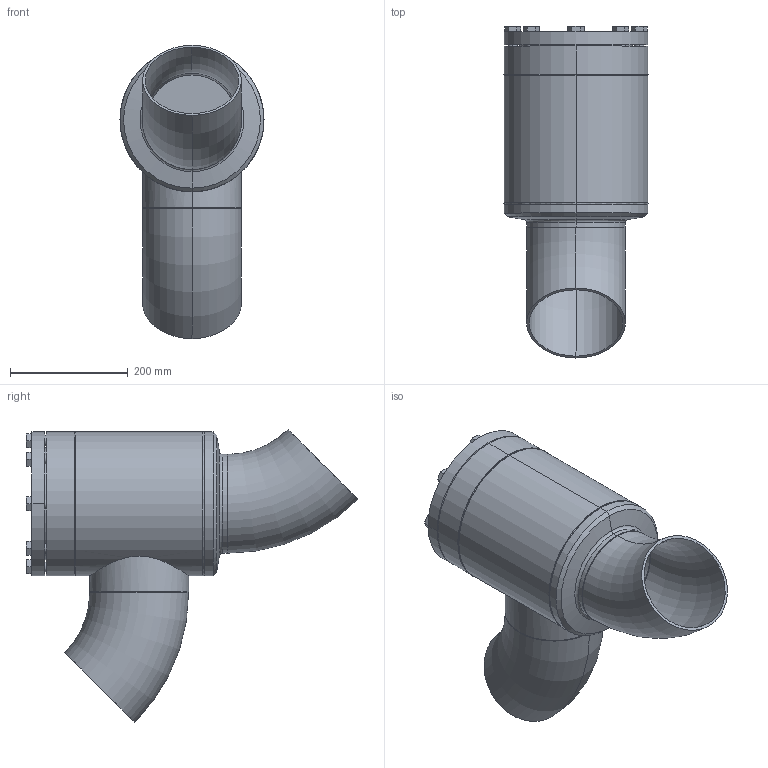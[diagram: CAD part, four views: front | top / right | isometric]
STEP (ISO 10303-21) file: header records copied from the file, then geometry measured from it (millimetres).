
FILE_DESCRIPTION (( 'STEP AP214' ), '1' );
FILE_NAME ('SS52300D21-DN150_R1_PS40.STEP', '2006-05-02T05:45:00', ( 'Herr Grams' ), ( 'AWP GmbH' ), 'SwSTEP 2.0', 'SolidWorks 2002296', '' );
FILE_SCHEMA (( 'AUTOMOTIVE_DESIGN' ));
Length unit declared in the file: millimetre
Products named in the file (14): SS52300D21-DN150_R1_PS40; Gehäuse-kpl16300-DN150_R1_Standard; Kopfstück16300-DN150_Standard; Gehäuse16300-DN150_Standard; Boden16300-DN150_Standard; Rohrstutzen-A16300-DN150_R1_Standard; Rohrbogen 45°_Rohrbogen-DN150-45°; bead-DN150-4_Standard; bead-DN150-1_Standard; bead-DN150-3_Standard; bead-DN150-2_Standard; SS52300E21_Deck+Schr-DN150_Standard; Deckel52300E21-DN150_Standard; Sechskantschraube-DIN933_M16x 45
Assembly tree (23 placements, depth 3):
  SS52300D21-DN150_R1_PS40
    SS52300E21_Deck+Schr-DN150_Standard
      Sechskantschraube-DIN933_M16x 45  x8
      Deckel52300E21-DN150_Standard
    Gehäuse-kpl16300-DN150_R1_Standard
      Kopfstück16300-DN150_Standard
      bead-DN150-4_Standard  x2
      Rohrstutzen-A16300-DN150_R1_Standard
      Rohrbogen 45°_Rohrbogen-DN150-45°  x2
      bead-DN150-2_Standard
      bead-DN150-1_Standard  x2
      Boden16300-DN150_Standard
      bead-DN150-3_Standard
      Gehäuse16300-DN150_Standard
Bounding box: 245.28 x 564.93 x 499.01 mm (x, y, z)
Volume: 5784744.9 mm3; surface area: 1274564.1 mm2
Topology: 21 solids, 21 shells, 315 faces, 668 edges, 404 vertices
Faces by surface type: cone 120, plane 100, cylinder 61, bspline 24, torus 10
Entity records: 6746 total; most frequent: CARTESIAN_POINT 3294, DIRECTION 572, ORIENTED_EDGE 536, EDGE_CURVE 268, AXIS2_PLACEMENT_3D 254, VERTEX_POINT 170, EDGE_LOOP 160, ADVANCED_FACE 122
